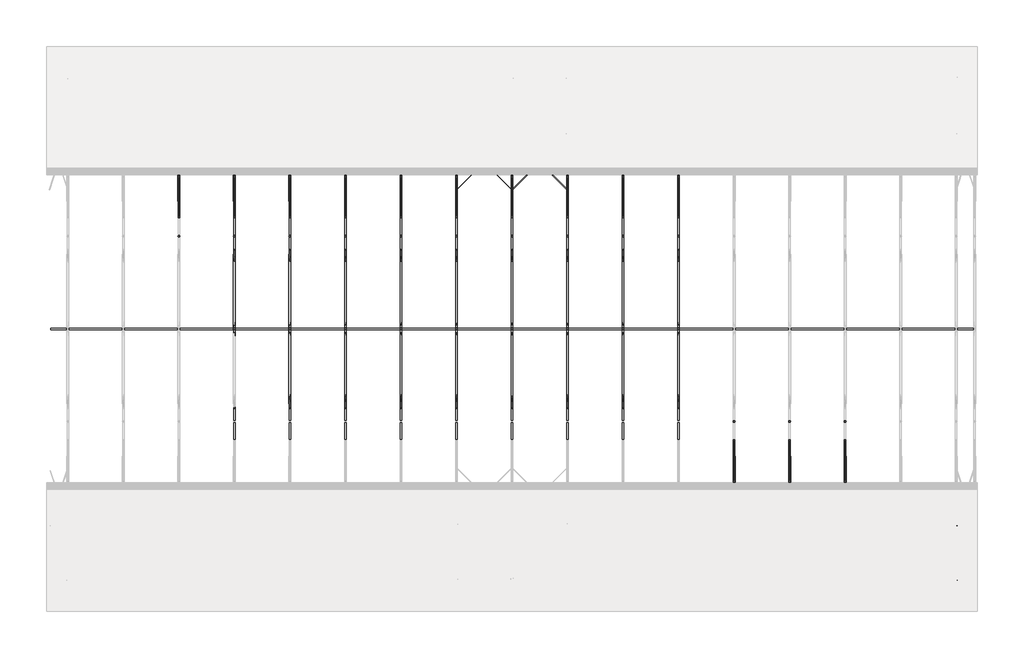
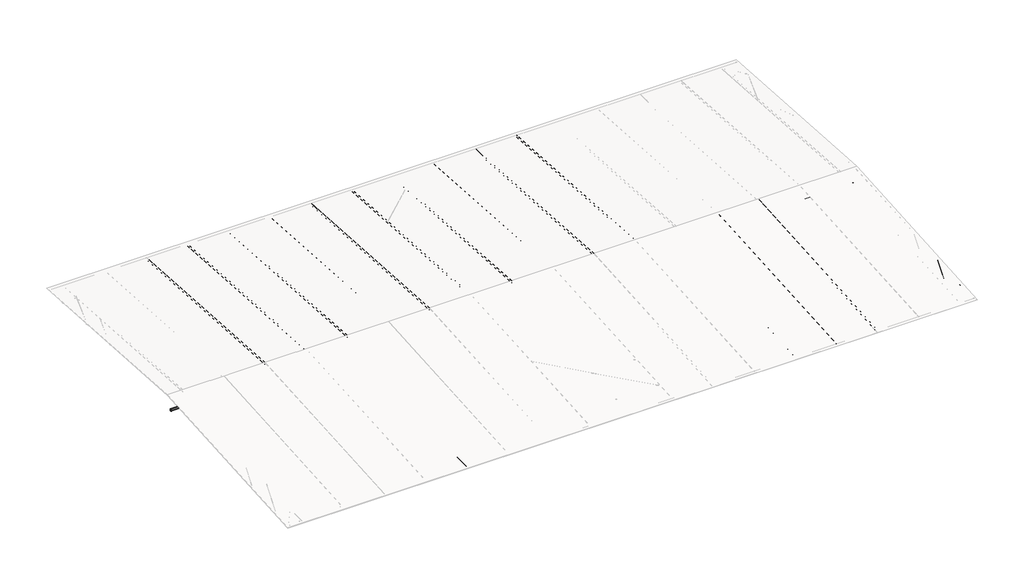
# One storey, part 2 of 3: 89 beams, 8 members.
"""IFC4 building model written with IfcOpenShell, lengths in millimetres."""

from ifc_helpers import new_model, si_unit, origin, place, context, project, spatial, transform, mapped, element, save
from components import round_bar_ef4423fe, round_bar_4b02da19, round_bar_197e2d5d, round_bar_92be63b7, round_bar_eebc96e0, round_bar_8cfec21f, round_bar_b8de9798, ub_universal_beams_ub305x165x40_7b27b8ec, ub_universal_beams_ub305x165x40_84cf911b, ub_universal_beams_ub305x165x40_f28fc4b8, ub_universal_beams_ub305x165x40_3e4cec4f, round_bars_rb_1_1_2_9ddfed39, round_bars_rb_1_1_2_e9ff4006, round_bars_rb_1_1_2_74885bf5, round_bars_rb_1_1_2_fb952806, round_bars_rb_1_1_2_01b69033, round_bars_rb_1_1_2_675568ba, round_bars_rb_1_1_2_2cc5c88c

model = new_model("IFC4")

# Units and contexts
model_context = context("Model", 3, world=origin())
ifc_project = project(units=[si_unit("LENGTHUNIT", "METRE", prefix="MILLI")], contexts=[model_context])

# Site, building, storey
site = spatial("IfcSite", under=ifc_project)
building = spatial("IfcBuilding", under=site)
storey = spatial("IfcBuildingStorey", under=building, Name="Donji pojas resetke", Elevation=6000.0)

# Beams
placement = place(None, origin())
round_bar_shape = round_bar_ef4423fe(model_context)
element("IfcBeam", 1, ObjectType="Round Bar : Ispuna resetke", at=placement, inside=storey, context=model_context, shape_type="MappedRepresentation", body=[
    mapped(round_bar_shape, transform((11063.6750595, -22966.8171651, 7151.7), x_axis=(0.0, 0.0, 1.0), y_axis=(-1.0, 0.0, 0.0), z_axis=(0.0, -1.0, 0.0))),
])
element("IfcBeam", 2, ObjectType="Round Bar : Ispuna resetke", at=placement, inside=storey, context=model_context, shape_type="MappedRepresentation", body=[
    mapped(round_bar_shape, transform((17063.6750595, -22966.8171651, 7151.7), x_axis=(0.0, 0.0, 1.0), y_axis=(-1.0, 0.0, 0.0), z_axis=(0.0, -1.0, 0.0))),
])
element("IfcBeam", 3, ObjectType="Round Bar : Ispuna resetke", at=placement, inside=storey, context=model_context, shape_type="MappedRepresentation", body=[
    mapped(round_bar_shape, transform((23063.6750595, -22966.8171651, 7151.7), x_axis=(0.0, 0.0, 1.0), y_axis=(-1.0, 0.0, 0.0), z_axis=(0.0, -1.0, 0.0))),
])
element("IfcBeam", 4, ObjectType="Round Bar : Ispuna resetke", at=placement, inside=storey, context=model_context, shape_type="MappedRepresentation", body=[
    mapped(round_bar_shape, transform((29063.6750595, -22966.8171651, 7151.7), x_axis=(0.0, 0.0, 1.0), y_axis=(-1.0, 0.0, 0.0), z_axis=(0.0, -1.0, 0.0))),
])
element("IfcBeam", 5, ObjectType="Round Bar : Ispuna resetke", at=placement, inside=storey, context=model_context, shape_type="MappedRepresentation", body=[
    mapped(round_bar_shape, transform((35063.6750595, -22966.8171651, 7151.7), x_axis=(0.0, 0.0, 1.0), y_axis=(-1.0, 0.0, 0.0), z_axis=(0.0, -1.0, 0.0))),
])
element("IfcBeam", 6, ObjectType="Round Bar : Ispuna resetke", at=placement, inside=storey, context=model_context, shape_type="MappedRepresentation", body=[
    mapped(round_bar_shape, transform((41063.6750595, -22966.8171651, 7151.7), x_axis=(0.0, 0.0, 1.0), y_axis=(-1.0, 0.0, 0.0), z_axis=(0.0, -1.0, 0.0))),
])
element("IfcBeam", 7, ObjectType="Round Bar : Ispuna resetke", at=placement, inside=storey, context=model_context, shape_type="MappedRepresentation", body=[
    mapped(round_bar_shape, transform((47063.6750595, -22966.8171651, 7151.7), x_axis=(0.0, 0.0, 1.0), y_axis=(-1.0, 0.0, 0.0), z_axis=(0.0, -1.0, 0.0))),
])
element("IfcBeam", 8, ObjectType="Round Bar : Ispuna resetke", at=placement, inside=storey, context=model_context, shape_type="MappedRepresentation", body=[
    mapped(round_bar_shape, transform((53063.6750595, -22966.8171651, 7151.7), x_axis=(0.0, 0.0, 1.0), y_axis=(-1.0, 0.0, 0.0), z_axis=(0.0, -1.0, 0.0))),
])
element("IfcBeam", 9, ObjectType="Round Bar : Ispuna resetke", at=placement, inside=storey, context=model_context, shape_type="MappedRepresentation", body=[
    mapped(round_bar_shape, transform((59063.6750595, -22966.8171651, 7151.7), x_axis=(0.0, 0.0, 1.0), y_axis=(-1.0, 0.0, 0.0), z_axis=(0.0, -1.0, 0.0))),
])
round_bar_2_shape = round_bar_4b02da19(model_context)
element("IfcBeam", 10, ObjectType="Round Bar : Ispuna resetke", at=placement, inside=storey, context=model_context, shape_type="MappedRepresentation", body=[
    mapped(round_bar_2_shape, transform((5063.6750595, -12966.8171651, 6818.3666667), x_axis=(0.0, 0.0, 1.0), y_axis=(-1.0, 0.0, 0.0), z_axis=(0.0, -1.0, 0.0))),
])
element("IfcBeam", 11, ObjectType="Round Bar : Ispuna resetke", at=placement, inside=storey, context=model_context, shape_type="MappedRepresentation", body=[
    mapped(round_bar_2_shape, transform((11063.6750595, -12966.8171651, 6818.3666667), x_axis=(0.0, 0.0, 1.0), y_axis=(-1.0, 0.0, 0.0), z_axis=(0.0, -1.0, 0.0))),
])
element("IfcBeam", 12, ObjectType="Round Bar : Ispuna resetke", at=placement, inside=storey, context=model_context, shape_type="MappedRepresentation", body=[
    mapped(round_bar_2_shape, transform((17063.6750595, -12966.8171651, 6818.3666667), x_axis=(0.0, 0.0, 1.0), y_axis=(-1.0, 0.0, 0.0), z_axis=(0.0, -1.0, 0.0))),
])
element("IfcBeam", 13, ObjectType="Round Bar : Ispuna resetke", at=placement, inside=storey, context=model_context, shape_type="MappedRepresentation", body=[
    mapped(round_bar_2_shape, transform((23063.6750595, -12966.8171651, 6818.3666667), x_axis=(0.0, 0.0, 1.0), y_axis=(-1.0, 0.0, 0.0), z_axis=(0.0, -1.0, 0.0))),
])
element("IfcBeam", 14, ObjectType="Round Bar : Ispuna resetke", at=placement, inside=storey, context=model_context, shape_type="MappedRepresentation", body=[
    mapped(round_bar_2_shape, transform((29063.6750595, -12966.8171651, 6818.3666667), x_axis=(0.0, 0.0, 1.0), y_axis=(-1.0, 0.0, 0.0), z_axis=(0.0, -1.0, 0.0))),
])
element("IfcBeam", 15, ObjectType="Round Bar : Ispuna resetke", at=placement, inside=storey, context=model_context, shape_type="MappedRepresentation", body=[
    mapped(round_bar_2_shape, transform((35063.6750595, -12966.8171651, 6818.3666667), x_axis=(0.0, 0.0, 1.0), y_axis=(-1.0, 0.0, 0.0), z_axis=(0.0, -1.0, 0.0))),
])
element("IfcBeam", 16, ObjectType="Round Bar : Ispuna resetke", at=placement, inside=storey, context=model_context, shape_type="MappedRepresentation", body=[
    mapped(round_bar_2_shape, transform((41063.6750595, -12966.8171651, 6818.3666667), x_axis=(0.0, 0.0, 1.0), y_axis=(-1.0, 0.0, 0.0), z_axis=(0.0, -1.0, 0.0))),
])
element("IfcBeam", 17, ObjectType="Round Bar : Ispuna resetke", at=placement, inside=storey, context=model_context, shape_type="MappedRepresentation", body=[
    mapped(round_bar_2_shape, transform((47063.6750595, -12966.8171651, 6818.3666667), x_axis=(0.0, 0.0, 1.0), y_axis=(-1.0, 0.0, 0.0), z_axis=(0.0, -1.0, 0.0))),
])
element("IfcBeam", 18, ObjectType="Round Bar : Ispuna resetke", at=placement, inside=storey, context=model_context, shape_type="MappedRepresentation", body=[
    mapped(round_bar_2_shape, transform((53063.6750595, -12966.8171651, 6818.3666667), x_axis=(0.0, 0.0, 1.0), y_axis=(-1.0, 0.0, 0.0), z_axis=(0.0, -1.0, 0.0))),
])
element("IfcBeam", 19, ObjectType="Round Bar : Ispuna resetke", at=placement, inside=storey, context=model_context, shape_type="MappedRepresentation", body=[
    mapped(round_bar_2_shape, transform((59063.6750595, -12966.8171651, 6818.3666667), x_axis=(0.0, 0.0, 1.0), y_axis=(-1.0, 0.0, 0.0), z_axis=(0.0, -1.0, 0.0))),
])
element("IfcBeam", 20, ObjectType="Round Bar : Ispuna resetke", at=placement, inside=storey, context=model_context, shape_type="MappedRepresentation", body=[
    mapped(round_bar_2_shape, transform((65063.6750595, -32966.8171651, 6818.3666667), x_axis=(0.0, 0.0, 1.0), y_axis=(-1.0, 0.0, 0.0), z_axis=(0.0, -1.0, 0.0))),
])
element("IfcBeam", 21, ObjectType="Round Bar : Ispuna resetke", at=placement, inside=storey, context=model_context, shape_type="MappedRepresentation", body=[
    mapped(round_bar_2_shape, transform((71063.6750595, -32966.8171651, 6818.3666667), x_axis=(0.0, 0.0, 1.0), y_axis=(-1.0, 0.0, 0.0), z_axis=(0.0, -1.0, 0.0))),
])
element("IfcBeam", 22, ObjectType="Round Bar : Ispuna resetke", at=placement, inside=storey, context=model_context, shape_type="MappedRepresentation", body=[
    mapped(round_bar_2_shape, transform((77063.6750595, -32966.8171651, 6818.3666667), x_axis=(0.0, 0.0, 1.0), y_axis=(-1.0, 0.0, 0.0), z_axis=(0.0, -1.0, 0.0))),
])
round_bar_3_shape = round_bar_197e2d5d(model_context)
element("IfcBeam", 23, ObjectType="Round Bar : Ispuna resetke", at=placement, inside=storey, context=model_context, shape_type="MappedRepresentation", body=[
    mapped(round_bar_3_shape, transform((5063.6750595, -2966.8171651, 6485.0333333), x_axis=(0.0, 0.0, 1.0), y_axis=(-1.0, 0.0, 0.0), z_axis=(0.0, -1.0, 0.0))),
])
element("IfcBeam", 24, ObjectType="Round Bar : Ispuna resetke", at=placement, inside=storey, context=model_context, shape_type="MappedRepresentation", body=[
    mapped(round_bar_3_shape, transform((11063.6750595, -2966.8171651, 6485.0333333), x_axis=(0.0, 0.0, 1.0), y_axis=(-1.0, 0.0, 0.0), z_axis=(0.0, -1.0, 0.0))),
])
element("IfcBeam", 25, ObjectType="Round Bar : Ispuna resetke", at=placement, inside=storey, context=model_context, shape_type="MappedRepresentation", body=[
    mapped(round_bar_3_shape, transform((17063.6750595, -2966.8171651, 6485.0333333), x_axis=(0.0, 0.0, 1.0), y_axis=(-1.0, 0.0, 0.0), z_axis=(0.0, -1.0, 0.0))),
])
element("IfcBeam", 26, ObjectType="Round Bar : Ispuna resetke", at=placement, inside=storey, context=model_context, shape_type="MappedRepresentation", body=[
    mapped(round_bar_3_shape, transform((23063.6750595, -2966.8171651, 6485.0333333), x_axis=(0.0, 0.0, 1.0), y_axis=(-1.0, 0.0, 0.0), z_axis=(0.0, -1.0, 0.0))),
])
element("IfcBeam", 27, ObjectType="Round Bar : Ispuna resetke", at=placement, inside=storey, context=model_context, shape_type="MappedRepresentation", body=[
    mapped(round_bar_3_shape, transform((29063.6750595, -2966.8171651, 6485.0333333), x_axis=(0.0, 0.0, 1.0), y_axis=(-1.0, 0.0, 0.0), z_axis=(0.0, -1.0, 0.0))),
])
element("IfcBeam", 28, ObjectType="Round Bar : Ispuna resetke", at=placement, inside=storey, context=model_context, shape_type="MappedRepresentation", body=[
    mapped(round_bar_3_shape, transform((35063.6750595, -2966.8171651, 6485.0333333), x_axis=(0.0, 0.0, 1.0), y_axis=(-1.0, 0.0, 0.0), z_axis=(0.0, -1.0, 0.0))),
])
element("IfcBeam", 29, ObjectType="Round Bar : Ispuna resetke", at=placement, inside=storey, context=model_context, shape_type="MappedRepresentation", body=[
    mapped(round_bar_3_shape, transform((41063.6750595, -2966.8171651, 6485.0333333), x_axis=(0.0, 0.0, 1.0), y_axis=(-1.0, 0.0, 0.0), z_axis=(0.0, -1.0, 0.0))),
])
element("IfcBeam", 30, ObjectType="Round Bar : Ispuna resetke", at=placement, inside=storey, context=model_context, shape_type="MappedRepresentation", body=[
    mapped(round_bar_3_shape, transform((47063.6750595, -2966.8171651, 6485.0333333), x_axis=(0.0, 0.0, 1.0), y_axis=(-1.0, 0.0, 0.0), z_axis=(0.0, -1.0, 0.0))),
])
element("IfcBeam", 31, ObjectType="Round Bar : Ispuna resetke", at=placement, inside=storey, context=model_context, shape_type="MappedRepresentation", body=[
    mapped(round_bar_3_shape, transform((53063.6750595, -2966.8171651, 6485.0333333), x_axis=(0.0, 0.0, 1.0), y_axis=(-1.0, 0.0, 0.0), z_axis=(0.0, -1.0, 0.0))),
])
element("IfcBeam", 32, ObjectType="Round Bar : Ispuna resetke", at=placement, inside=storey, context=model_context, shape_type="MappedRepresentation", body=[
    mapped(round_bar_3_shape, transform((59063.6750595, -2966.8171651, 6485.0333333), x_axis=(0.0, 0.0, 1.0), y_axis=(-1.0, 0.0, 0.0), z_axis=(0.0, -1.0, 0.0))),
])
element("IfcBeam", 33, ObjectType="Round Bar : Ispuna resetke", at=placement, inside=storey, context=model_context, shape_type="MappedRepresentation", body=[
    mapped(round_bar_3_shape, transform((65063.6750595, -42966.8171651, 6485.0333333), x_axis=(0.0, 0.0, 1.0), y_axis=(-1.0, 0.0, 0.0), z_axis=(0.0, -1.0, 0.0))),
])
element("IfcBeam", 34, ObjectType="Round Bar : Ispuna resetke", at=placement, inside=storey, context=model_context, shape_type="MappedRepresentation", body=[
    mapped(round_bar_3_shape, transform((71063.6750595, -42966.8171651, 6485.0333333), x_axis=(0.0, 0.0, 1.0), y_axis=(-1.0, 0.0, 0.0), z_axis=(0.0, -1.0, 0.0))),
])
element("IfcBeam", 35, ObjectType="Round Bar : Ispuna resetke", at=placement, inside=storey, context=model_context, shape_type="MappedRepresentation", body=[
    mapped(round_bar_3_shape, transform((77063.6750595, -42966.8171651, 6485.0333333), x_axis=(0.0, 0.0, 1.0), y_axis=(-1.0, 0.0, 0.0), z_axis=(0.0, -1.0, 0.0))),
])
element("IfcBeam", 36, ObjectType="Round Bar : Ispuna resetke", at=placement, inside=storey, context=model_context, shape_type="MappedRepresentation", body=[
    mapped(round_bar_3_shape, transform((83063.6750595, -42966.8171651, 6485.0333333), x_axis=(0.0, 0.0, 1.0), y_axis=(-1.0, 0.0, 0.0), z_axis=(0.0, -1.0, 0.0))),
])
round_bar_4_shape = round_bar_92be63b7(model_context)
element("IfcBeam", 37, ObjectType="Round Bar : Ispuna resetke", at=placement, inside=storey, context=model_context, shape_type="MappedRepresentation", body=[
    mapped(round_bar_4_shape, transform((11063.6750595, -17966.8171651, 6818.3666667), x_axis=(0.0, -0.9912279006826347, -0.13216372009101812), y_axis=(-1.0, 0.0, 0.0), z_axis=(0.0, 0.13216372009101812, -0.9912279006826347))),
])
element("IfcBeam", 38, ObjectType="Round Bar : Ispuna resetke", at=placement, inside=storey, context=model_context, shape_type="MappedRepresentation", body=[
    mapped(round_bar_4_shape, transform((17063.6750595, -17966.8171651, 6818.3666667), x_axis=(0.0, -0.9912279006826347, -0.13216372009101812), y_axis=(-1.0, 0.0, 0.0), z_axis=(0.0, 0.13216372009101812, -0.9912279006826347))),
])
element("IfcBeam", 39, ObjectType="Round Bar : Ispuna resetke", at=placement, inside=storey, context=model_context, shape_type="MappedRepresentation", body=[
    mapped(round_bar_4_shape, transform((23063.6750595, -17966.8171651, 6818.3666667), x_axis=(0.0, -0.9912279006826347, -0.13216372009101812), y_axis=(-1.0, 0.0, 0.0), z_axis=(0.0, 0.13216372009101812, -0.9912279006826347))),
])
element("IfcBeam", 40, ObjectType="Round Bar : Ispuna resetke", at=placement, inside=storey, context=model_context, shape_type="MappedRepresentation", body=[
    mapped(round_bar_4_shape, transform((29063.6750595, -17966.8171651, 6818.3666667), x_axis=(0.0, -0.9912279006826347, -0.13216372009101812), y_axis=(-1.0, 0.0, 0.0), z_axis=(0.0, 0.13216372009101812, -0.9912279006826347))),
])
element("IfcBeam", 41, ObjectType="Round Bar : Ispuna resetke", at=placement, inside=storey, context=model_context, shape_type="MappedRepresentation", body=[
    mapped(round_bar_4_shape, transform((35063.6750595, -17966.8171651, 6818.3666667), x_axis=(0.0, -0.9912279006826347, -0.13216372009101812), y_axis=(-1.0, 0.0, 0.0), z_axis=(0.0, 0.13216372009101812, -0.9912279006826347))),
])
element("IfcBeam", 42, ObjectType="Round Bar : Ispuna resetke", at=placement, inside=storey, context=model_context, shape_type="MappedRepresentation", body=[
    mapped(round_bar_4_shape, transform((41063.6750595, -17966.8171651, 6818.3666667), x_axis=(0.0, -0.9912279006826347, -0.13216372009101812), y_axis=(-1.0, 0.0, 0.0), z_axis=(0.0, 0.13216372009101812, -0.9912279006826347))),
])
element("IfcBeam", 43, ObjectType="Round Bar : Ispuna resetke", at=placement, inside=storey, context=model_context, shape_type="MappedRepresentation", body=[
    mapped(round_bar_4_shape, transform((47063.6750595, -17966.8171651, 6818.3666667), x_axis=(0.0, -0.9912279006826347, -0.13216372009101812), y_axis=(-1.0, 0.0, 0.0), z_axis=(0.0, 0.13216372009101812, -0.9912279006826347))),
])
element("IfcBeam", 44, ObjectType="Round Bar : Ispuna resetke", at=placement, inside=storey, context=model_context, shape_type="MappedRepresentation", body=[
    mapped(round_bar_4_shape, transform((53063.6750595, -17966.8171651, 6818.3666667), x_axis=(0.0, -0.9912279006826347, -0.13216372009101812), y_axis=(-1.0, 0.0, 0.0), z_axis=(0.0, 0.13216372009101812, -0.9912279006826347))),
])
element("IfcBeam", 45, ObjectType="Round Bar : Ispuna resetke", at=placement, inside=storey, context=model_context, shape_type="MappedRepresentation", body=[
    mapped(round_bar_4_shape, transform((59063.6750595, -17966.8171651, 6818.3666667), x_axis=(0.0, -0.9912279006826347, -0.13216372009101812), y_axis=(-1.0, 0.0, 0.0), z_axis=(0.0, 0.13216372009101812, -0.9912279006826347))),
])
round_bar_5_shape = round_bar_eebc96e0(model_context)
element("IfcBeam", 46, ObjectType="Round Bar : Ispuna resetke", at=placement, inside=storey, context=model_context, shape_type="MappedRepresentation", body=[
    mapped(round_bar_5_shape, transform((5063.6750595, -7966.8171651, 6485.0333333), x_axis=(0.0, -0.9977851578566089, -0.06651901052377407), y_axis=(-1.0, 0.0, 0.0), z_axis=(0.0, 0.06651901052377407, -0.9977851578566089))),
])
element("IfcBeam", 47, ObjectType="Round Bar : Ispuna resetke", at=placement, inside=storey, context=model_context, shape_type="MappedRepresentation", body=[
    mapped(round_bar_5_shape, transform((11063.6750595, -7966.8171651, 6485.0333333), x_axis=(0.0, -0.9977851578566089, -0.06651901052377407), y_axis=(-1.0, 0.0, 0.0), z_axis=(0.0, 0.06651901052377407, -0.9977851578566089))),
])
element("IfcBeam", 48, ObjectType="Round Bar : Ispuna resetke", at=placement, inside=storey, context=model_context, shape_type="MappedRepresentation", body=[
    mapped(round_bar_5_shape, transform((17063.6750595, -7966.8171651, 6485.0333333), x_axis=(0.0, -0.9977851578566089, -0.06651901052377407), y_axis=(-1.0, 0.0, 0.0), z_axis=(0.0, 0.06651901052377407, -0.9977851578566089))),
])
element("IfcBeam", 49, ObjectType="Round Bar : Ispuna resetke", at=placement, inside=storey, context=model_context, shape_type="MappedRepresentation", body=[
    mapped(round_bar_5_shape, transform((23063.6750595, -7966.8171651, 6485.0333333), x_axis=(0.0, -0.9977851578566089, -0.06651901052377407), y_axis=(-1.0, 0.0, 0.0), z_axis=(0.0, 0.06651901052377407, -0.9977851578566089))),
])
element("IfcBeam", 50, ObjectType="Round Bar : Ispuna resetke", at=placement, inside=storey, context=model_context, shape_type="MappedRepresentation", body=[
    mapped(round_bar_5_shape, transform((29063.6750595, -7966.8171651, 6485.0333333), x_axis=(0.0, -0.9977851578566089, -0.06651901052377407), y_axis=(-1.0, 0.0, 0.0), z_axis=(0.0, 0.06651901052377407, -0.9977851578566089))),
])
element("IfcBeam", 51, ObjectType="Round Bar : Ispuna resetke", at=placement, inside=storey, context=model_context, shape_type="MappedRepresentation", body=[
    mapped(round_bar_5_shape, transform((35063.6750595, -7966.8171651, 6485.0333333), x_axis=(0.0, -0.9977851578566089, -0.06651901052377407), y_axis=(-1.0, 0.0, 0.0), z_axis=(0.0, 0.06651901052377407, -0.9977851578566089))),
])
element("IfcBeam", 52, ObjectType="Round Bar : Ispuna resetke", at=placement, inside=storey, context=model_context, shape_type="MappedRepresentation", body=[
    mapped(round_bar_5_shape, transform((41063.6750595, -7966.8171651, 6485.0333333), x_axis=(0.0, -0.9977851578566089, -0.06651901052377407), y_axis=(-1.0, 0.0, 0.0), z_axis=(0.0, 0.06651901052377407, -0.9977851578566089))),
])
element("IfcBeam", 53, ObjectType="Round Bar : Ispuna resetke", at=placement, inside=storey, context=model_context, shape_type="MappedRepresentation", body=[
    mapped(round_bar_5_shape, transform((47063.6750595, -7966.8171651, 6485.0333333), x_axis=(0.0, -0.9977851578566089, -0.06651901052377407), y_axis=(-1.0, 0.0, 0.0), z_axis=(0.0, 0.06651901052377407, -0.9977851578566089))),
])
element("IfcBeam", 54, ObjectType="Round Bar : Ispuna resetke", at=placement, inside=storey, context=model_context, shape_type="MappedRepresentation", body=[
    mapped(round_bar_5_shape, transform((53063.6750595, -7966.8171651, 6485.0333333), x_axis=(0.0, -0.9977851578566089, -0.06651901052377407), y_axis=(-1.0, 0.0, 0.0), z_axis=(0.0, 0.06651901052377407, -0.9977851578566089))),
])
element("IfcBeam", 55, ObjectType="Round Bar : Ispuna resetke", at=placement, inside=storey, context=model_context, shape_type="MappedRepresentation", body=[
    mapped(round_bar_5_shape, transform((59063.6750595, -7966.8171651, 6485.0333333), x_axis=(0.0, -0.9977851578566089, -0.06651901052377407), y_axis=(-1.0, 0.0, 0.0), z_axis=(0.0, 0.06651901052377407, -0.9977851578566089))),
])
round_bar_6_shape = round_bar_8cfec21f(model_context)
element("IfcBeam", 56, ObjectType="Round Bar : Ispuna resetke", at=placement, inside=storey, context=model_context, shape_type="MappedRepresentation", body=[
    mapped(round_bar_6_shape, transform((17063.6750595, -27966.8171651, 6818.3666667), x_axis=(0.0, -0.9912279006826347, 0.13216372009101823), y_axis=(-1.0, 0.0, 0.0), z_axis=(0.0, -0.13216372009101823, -0.9912279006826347))),
])
element("IfcBeam", 57, ObjectType="Round Bar : Ispuna resetke", at=placement, inside=storey, context=model_context, shape_type="MappedRepresentation", body=[
    mapped(round_bar_6_shape, transform((23063.6750595, -27966.8171651, 6818.3666667), x_axis=(0.0, -0.9912279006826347, 0.13216372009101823), y_axis=(-1.0, 0.0, 0.0), z_axis=(0.0, -0.13216372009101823, -0.9912279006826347))),
])
element("IfcBeam", 58, ObjectType="Round Bar : Ispuna resetke", at=placement, inside=storey, context=model_context, shape_type="MappedRepresentation", body=[
    mapped(round_bar_6_shape, transform((29063.6750595, -27966.8171651, 6818.3666667), x_axis=(0.0, -0.9912279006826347, 0.13216372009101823), y_axis=(-1.0, 0.0, 0.0), z_axis=(0.0, -0.13216372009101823, -0.9912279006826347))),
])
element("IfcBeam", 59, ObjectType="Round Bar : Ispuna resetke", at=placement, inside=storey, context=model_context, shape_type="MappedRepresentation", body=[
    mapped(round_bar_6_shape, transform((35063.6750595, -27966.8171651, 6818.3666667), x_axis=(0.0, -0.9912279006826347, 0.13216372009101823), y_axis=(-1.0, 0.0, 0.0), z_axis=(0.0, -0.13216372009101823, -0.9912279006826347))),
])
element("IfcBeam", 60, ObjectType="Round Bar : Ispuna resetke", at=placement, inside=storey, context=model_context, shape_type="MappedRepresentation", body=[
    mapped(round_bar_6_shape, transform((41063.6750595, -27966.8171651, 6818.3666667), x_axis=(0.0, -0.9912279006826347, 0.13216372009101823), y_axis=(-1.0, 0.0, 0.0), z_axis=(0.0, -0.13216372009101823, -0.9912279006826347))),
])
element("IfcBeam", 61, ObjectType="Round Bar : Ispuna resetke", at=placement, inside=storey, context=model_context, shape_type="MappedRepresentation", body=[
    mapped(round_bar_6_shape, transform((47063.6750595, -27966.8171651, 6818.3666667), x_axis=(0.0, -0.9912279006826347, 0.13216372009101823), y_axis=(-1.0, 0.0, 0.0), z_axis=(0.0, -0.13216372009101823, -0.9912279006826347))),
])
element("IfcBeam", 62, ObjectType="Round Bar : Ispuna resetke", at=placement, inside=storey, context=model_context, shape_type="MappedRepresentation", body=[
    mapped(round_bar_6_shape, transform((53063.6750595, -27966.8171651, 6818.3666667), x_axis=(0.0, -0.9912279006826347, 0.13216372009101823), y_axis=(-1.0, 0.0, 0.0), z_axis=(0.0, -0.13216372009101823, -0.9912279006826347))),
])
element("IfcBeam", 63, ObjectType="Round Bar : Ispuna resetke", at=placement, inside=storey, context=model_context, shape_type="MappedRepresentation", body=[
    mapped(round_bar_6_shape, transform((59063.6750595, -27966.8171651, 6818.3666667), x_axis=(0.0, -0.9912279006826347, 0.13216372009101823), y_axis=(-1.0, 0.0, 0.0), z_axis=(0.0, -0.13216372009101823, -0.9912279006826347))),
])
round_bar_7_shape = round_bar_b8de9798(model_context)
element("IfcBeam", 64, ObjectType="Round Bar : Ispuna resetke", at=placement, inside=storey, context=model_context, shape_type="MappedRepresentation", body=[
    mapped(round_bar_7_shape, transform((65063.6750595, -37966.8171651, 6485.0333333), x_axis=(0.0, -0.9977851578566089, 0.0665190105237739), y_axis=(-1.0, 0.0, 0.0), z_axis=(0.0, -0.0665190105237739, -0.9977851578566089))),
])
element("IfcBeam", 65, ObjectType="Round Bar : Ispuna resetke", at=placement, inside=storey, context=model_context, shape_type="MappedRepresentation", body=[
    mapped(round_bar_7_shape, transform((71063.6750595, -37966.8171651, 6485.0333333), x_axis=(0.0, -0.9977851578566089, 0.0665190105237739), y_axis=(-1.0, 0.0, 0.0), z_axis=(0.0, -0.0665190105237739, -0.9977851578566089))),
])
element("IfcBeam", 66, ObjectType="Round Bar : Ispuna resetke", at=placement, inside=storey, context=model_context, shape_type="MappedRepresentation", body=[
    mapped(round_bar_7_shape, transform((77063.6750595, -37966.8171651, 6485.0333333), x_axis=(0.0, -0.9977851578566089, 0.0665190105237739), y_axis=(-1.0, 0.0, 0.0), z_axis=(0.0, -0.0665190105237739, -0.9977851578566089))),
])
ub_universal_beams_ub305x165x40_shape = ub_universal_beams_ub305x165x40_7b27b8ec(model_context)
element("IfcBeam", 67, ObjectType="UB-Universal Beams : UB305x165x40", at=placement, inside=storey, context=model_context, shape_type="MappedRepresentation", body=[
    mapped(ub_universal_beams_ub305x165x40_shape, transform((11063.6750595, -22966.8171651, 6151.7), x_axis=(0.0, -1.0, 0.0), y_axis=(1.0, 0.0, 0.0), z_axis=(0.0, 0.0, 1.0))),
])
element("IfcBeam", 68, ObjectType="UB-Universal Beams : UB305x165x40", at=placement, inside=storey, context=model_context, shape_type="MappedRepresentation", body=[
    mapped(ub_universal_beams_ub305x165x40_shape, transform((17063.6750595, -22966.8171651, 6151.7), x_axis=(0.0, -1.0, 0.0), y_axis=(1.0, 0.0, 0.0), z_axis=(0.0, 0.0, 1.0))),
])
element("IfcBeam", 69, ObjectType="UB-Universal Beams : UB305x165x40", at=placement, inside=storey, context=model_context, shape_type="MappedRepresentation", body=[
    mapped(ub_universal_beams_ub305x165x40_shape, transform((23063.6750595, -22966.8171651, 6151.7), x_axis=(0.0, -1.0, 0.0), y_axis=(1.0, 0.0, 0.0), z_axis=(0.0, 0.0, 1.0))),
])
element("IfcBeam", 70, ObjectType="UB-Universal Beams : UB305x165x40", at=placement, inside=storey, context=model_context, shape_type="MappedRepresentation", body=[
    mapped(ub_universal_beams_ub305x165x40_shape, transform((29063.6750595, -22966.8171651, 6151.7), x_axis=(0.0, -1.0, 0.0), y_axis=(1.0, 0.0, 0.0), z_axis=(0.0, 0.0, 1.0))),
])
element("IfcBeam", 71, ObjectType="UB-Universal Beams : UB305x165x40", at=placement, inside=storey, context=model_context, shape_type="MappedRepresentation", body=[
    mapped(ub_universal_beams_ub305x165x40_shape, transform((35063.6750595, -22966.8171651, 6151.7), x_axis=(0.0, -1.0, 0.0), y_axis=(1.0, 0.0, 0.0), z_axis=(0.0, 0.0, 1.0))),
])
element("IfcBeam", 72, ObjectType="UB-Universal Beams : UB305x165x40", at=placement, inside=storey, context=model_context, shape_type="MappedRepresentation", body=[
    mapped(ub_universal_beams_ub305x165x40_shape, transform((41063.6750595, -22966.8171651, 6151.7), x_axis=(0.0, -1.0, 0.0), y_axis=(1.0, 0.0, 0.0), z_axis=(0.0, 0.0, 1.0))),
])
element("IfcBeam", 73, ObjectType="UB-Universal Beams : UB305x165x40", at=placement, inside=storey, context=model_context, shape_type="MappedRepresentation", body=[
    mapped(ub_universal_beams_ub305x165x40_shape, transform((47063.6750595, -22966.8171651, 6151.7), x_axis=(0.0, -1.0, 0.0), y_axis=(1.0, 0.0, 0.0), z_axis=(0.0, 0.0, 1.0))),
])
element("IfcBeam", 74, ObjectType="UB-Universal Beams : UB305x165x40", at=placement, inside=storey, context=model_context, shape_type="MappedRepresentation", body=[
    mapped(ub_universal_beams_ub305x165x40_shape, transform((53063.6750595, -22966.8171651, 6151.7), x_axis=(0.0, -1.0, 0.0), y_axis=(1.0, 0.0, 0.0), z_axis=(0.0, 0.0, 1.0))),
])
element("IfcBeam", 75, ObjectType="UB-Universal Beams : UB305x165x40", at=placement, inside=storey, context=model_context, shape_type="MappedRepresentation", body=[
    mapped(ub_universal_beams_ub305x165x40_shape, transform((59063.6750595, -22966.8171651, 6151.7), x_axis=(0.0, -1.0, 0.0), y_axis=(1.0, 0.0, 0.0), z_axis=(0.0, 0.0, 1.0))),
])
ub_universal_beams_ub305x165x40_2_shape = ub_universal_beams_ub305x165x40_84cf911b(model_context)
element("IfcBeam", 76, ObjectType="UB-Universal Beams : UB305x165x40", at=placement, inside=storey, context=model_context, shape_type="MappedRepresentation", body=[
    mapped(ub_universal_beams_ub305x165x40_2_shape, transform((41063.6750595, -22966.8171651, 5848.3), x_axis=(1.0, 0.0, 0.0), y_axis=(0.0, 1.0, 0.0), z_axis=(0.0, 0.0, 1.0))),
])
ub_universal_beams_ub305x165x40_3_shape = ub_universal_beams_ub305x165x40_f28fc4b8(model_context)
element("IfcBeam", 77, ObjectType="UB-Universal Beams : UB305x165x40", at=placement, inside=storey, context=model_context, shape_type="MappedRepresentation", body=[
    mapped(ub_universal_beams_ub305x165x40_3_shape, transform((65063.6750595, -37966.8171651, 7151.7), x_axis=(0.0, -0.9977851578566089, -0.06651901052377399), y_axis=(1.0, 0.0, 0.0), z_axis=(0.0, -0.06651901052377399, 0.9977851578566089))),
])
element("IfcBeam", 78, ObjectType="UB-Universal Beams : UB305x165x40", at=placement, inside=storey, context=model_context, shape_type="MappedRepresentation", body=[
    mapped(ub_universal_beams_ub305x165x40_3_shape, transform((71063.6750595, -37966.8171651, 7151.7), x_axis=(0.0, -0.9977851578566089, -0.06651901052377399), y_axis=(1.0, 0.0, 0.0), z_axis=(0.0, -0.06651901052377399, 0.9977851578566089))),
])
element("IfcBeam", 79, ObjectType="UB-Universal Beams : UB305x165x40", at=placement, inside=storey, context=model_context, shape_type="MappedRepresentation", body=[
    mapped(ub_universal_beams_ub305x165x40_3_shape, transform((77063.6750595, -37966.8171651, 7151.7), x_axis=(0.0, -0.9977851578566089, -0.06651901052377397), y_axis=(1.0, 0.0, 0.0), z_axis=(0.0, -0.06651901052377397, 0.9977851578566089))),
])
ub_universal_beams_ub305x165x40_4_shape = ub_universal_beams_ub305x165x40_3e4cec4f(model_context)
element("IfcBeam", 80, ObjectType="UB-Universal Beams : UB305x165x40", at=placement, inside=storey, context=model_context, shape_type="MappedRepresentation", body=[
    mapped(ub_universal_beams_ub305x165x40_4_shape, transform((5063.6750595, -7966.8171651, 7151.7), x_axis=(0.0, -0.9977851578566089, 0.06651901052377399), y_axis=(1.0, 0.0, 0.0), z_axis=(0.0, 0.06651901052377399, 0.9977851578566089))),
])
element("IfcBeam", 81, ObjectType="UB-Universal Beams : UB305x165x40", at=placement, inside=storey, context=model_context, shape_type="MappedRepresentation", body=[
    mapped(ub_universal_beams_ub305x165x40_4_shape, transform((11063.6750595, -7966.8171651, 7151.7), x_axis=(0.0, -0.9977851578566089, 0.06651901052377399), y_axis=(1.0, 0.0, 0.0), z_axis=(0.0, 0.06651901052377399, 0.9977851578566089))),
])
element("IfcBeam", 82, ObjectType="UB-Universal Beams : UB305x165x40", at=placement, inside=storey, context=model_context, shape_type="MappedRepresentation", body=[
    mapped(ub_universal_beams_ub305x165x40_4_shape, transform((17063.6750595, -7966.8171651, 7151.7), x_axis=(0.0, -0.9977851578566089, 0.06651901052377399), y_axis=(1.0, 0.0, 0.0), z_axis=(0.0, 0.06651901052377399, 0.9977851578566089))),
])
element("IfcBeam", 83, ObjectType="UB-Universal Beams : UB305x165x40", at=placement, inside=storey, context=model_context, shape_type="MappedRepresentation", body=[
    mapped(ub_universal_beams_ub305x165x40_4_shape, transform((23063.6750595, -7966.8171651, 7151.7), x_axis=(0.0, -0.9977851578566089, 0.06651901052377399), y_axis=(1.0, 0.0, 0.0), z_axis=(0.0, 0.06651901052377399, 0.9977851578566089))),
])
element("IfcBeam", 84, ObjectType="UB-Universal Beams : UB305x165x40", at=placement, inside=storey, context=model_context, shape_type="MappedRepresentation", body=[
    mapped(ub_universal_beams_ub305x165x40_4_shape, transform((29063.6750595, -7966.8171651, 7151.7), x_axis=(0.0, -0.9977851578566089, 0.06651901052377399), y_axis=(1.0, 0.0, 0.0), z_axis=(0.0, 0.06651901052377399, 0.9977851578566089))),
])
element("IfcBeam", 85, ObjectType="UB-Universal Beams : UB305x165x40", at=placement, inside=storey, context=model_context, shape_type="MappedRepresentation", body=[
    mapped(ub_universal_beams_ub305x165x40_4_shape, transform((35063.6750595, -7966.8171651, 7151.7), x_axis=(0.0, -0.9977851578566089, 0.06651901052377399), y_axis=(1.0, 0.0, 0.0), z_axis=(0.0, 0.06651901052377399, 0.9977851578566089))),
])
element("IfcBeam", 86, ObjectType="UB-Universal Beams : UB305x165x40", at=placement, inside=storey, context=model_context, shape_type="MappedRepresentation", body=[
    mapped(ub_universal_beams_ub305x165x40_4_shape, transform((41063.6750595, -7966.8171651, 7151.7), x_axis=(0.0, -0.9977851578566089, 0.06651901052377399), y_axis=(1.0, 0.0, 0.0), z_axis=(0.0, 0.06651901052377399, 0.9977851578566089))),
])
element("IfcBeam", 87, ObjectType="UB-Universal Beams : UB305x165x40", at=placement, inside=storey, context=model_context, shape_type="MappedRepresentation", body=[
    mapped(ub_universal_beams_ub305x165x40_4_shape, transform((47063.6750595, -7966.8171651, 7151.7), x_axis=(0.0, -0.9977851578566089, 0.06651901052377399), y_axis=(1.0, 0.0, 0.0), z_axis=(0.0, 0.06651901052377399, 0.9977851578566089))),
])
element("IfcBeam", 88, ObjectType="UB-Universal Beams : UB305x165x40", at=placement, inside=storey, context=model_context, shape_type="MappedRepresentation", body=[
    mapped(ub_universal_beams_ub305x165x40_4_shape, transform((53063.6750595, -7966.8171651, 7151.7), x_axis=(0.0, -0.9977851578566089, 0.06651901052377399), y_axis=(1.0, 0.0, 0.0), z_axis=(0.0, 0.06651901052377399, 0.9977851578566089))),
])
element("IfcBeam", 89, ObjectType="UB-Universal Beams : UB305x165x40", at=placement, inside=storey, context=model_context, shape_type="MappedRepresentation", body=[
    mapped(ub_universal_beams_ub305x165x40_4_shape, transform((59063.6750595, -7966.8171651, 7151.7), x_axis=(0.0, -0.9977851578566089, 0.06651901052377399), y_axis=(1.0, 0.0, 0.0), z_axis=(0.0, 0.06651901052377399, 0.9977851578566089))),
])

# Members
round_bars_rb_1_1_2_shape = round_bars_rb_1_1_2_9ddfed39(model_context)
element("IfcMember", 90, ObjectType="Round Bars : RB 1 1/2", at=placement, inside=storey, context=model_context, shape_type="MappedRepresentation", body=[
    mapped(round_bars_rb_1_1_2_shape, transform((44063.6750595, -4973.4616916, 6952.1429684), x_axis=(0.7071067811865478, 0.7055406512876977, -0.047036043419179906), y_axis=(-0.7063224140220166, 0.7078902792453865, 0.0), z_axis=(0.033296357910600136, 0.03322261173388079, 0.9988931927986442))),
])
element("IfcMember", 91, ObjectType="Round Bars : RB 1 1/2", at=placement, inside=storey, context=model_context, shape_type="MappedRepresentation", body=[
    mapped(round_bars_rb_1_1_2_shape, transform((44063.6750595, -4973.4616916, 6952.1429684), x_axis=(-0.7071067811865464, 0.705540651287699, -0.047036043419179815), y_axis=(-0.7063224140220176, -0.7078902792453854, 0.0), z_axis=(-0.03329635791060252, 0.03322261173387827, 0.998893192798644))),
])
round_bars_rb_1_1_2_2_shape = round_bars_rb_1_1_2_e9ff4006(model_context)
element("IfcMember", 92, ObjectType="Round Bars : RB 1 1/2", at=placement, inside=storey, context=model_context, shape_type="MappedRepresentation", body=[
    mapped(round_bars_rb_1_1_2_2_shape, transform((38063.6750595, -4966.8171651, 6648.3), x_axis=(0.7063224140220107, 0.7063224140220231, -0.047088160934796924), y_axis=(-0.7071067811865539, 0.7071067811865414, 0.0), z_axis=(0.03329635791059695, 0.033296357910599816, 0.9988907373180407))),
])
round_bars_rb_1_1_2_3_shape = round_bars_rb_1_1_2_74885bf5(model_context)
element("IfcMember", 93, ObjectType="Round Bars : RB 1 1/2", at=placement, inside=storey, context=model_context, shape_type="MappedRepresentation", body=[
    mapped(round_bars_rb_1_1_2_3_shape, transform((38063.6750595, -4966.8171651, 6648.3), x_axis=(-0.7063224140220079, 0.7063224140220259, -0.04708816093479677), y_axis=(-0.7071067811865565, -0.7071067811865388, 0.0), z_axis=(-0.033296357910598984, 0.03329635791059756, 0.9988907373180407))),
])
round_bars_rb_1_1_2_4_shape = round_bars_rb_1_1_2_fb952806(model_context)
element("IfcMember", 94, ObjectType="Round Bars : RB 1 1/2", at=placement, inside=storey, context=model_context, shape_type="MappedRepresentation", body=[
    mapped(round_bars_rb_1_1_2_4_shape, transform((90042.0057611, -47021.4834539, 6552.2790595), x_axis=(-0.3163062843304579, -0.9466459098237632, -0.061740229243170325), y_axis=(0.9484553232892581, -0.31691087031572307, 0.0), z_axis=(-0.019566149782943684, -0.058557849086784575, 0.9980922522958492))),
])
round_bars_rb_1_1_2_5_shape = round_bars_rb_1_1_2_01b69033(model_context)
element("IfcMember", 95, ObjectType="Round Bars : RB 1 1/2", at=placement, inside=storey, context=model_context, shape_type="MappedRepresentation", body=[
    mapped(round_bars_rb_1_1_2_5_shape, transform((90063.6750595, -51409.3211576, 6290.1011521), x_axis=(-0.5387878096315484, -0.8391349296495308, -0.07456719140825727), y_axis=(0.8414776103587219, -0.540291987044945, 0.0), z_axis=(-0.040288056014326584, -0.0627466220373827, 0.9972159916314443))),
])
round_bars_rb_1_1_2_6_shape = round_bars_rb_1_1_2_675568ba(model_context)
element("IfcMember", 96, ObjectType="Round Bars : RB 1 1/2", at=placement, inside=storey, context=model_context, shape_type="MappedRepresentation", body=[
    mapped(round_bars_rb_1_1_2_6_shape, transform((90063.6750595, -46875.7836833, 6592.3369837), x_axis=(0.31807894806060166, -0.9466308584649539, -0.0521133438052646), y_axis=(0.9479189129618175, 0.3185117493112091, 0.0), z_axis=(0.01659871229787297, -0.04939922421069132, 0.9986411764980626))),
])
round_bars_rb_1_1_2_7_shape = round_bars_rb_1_1_2_2cc5c88c(model_context)
element("IfcMember", 97, ObjectType="Round Bars : RB 1 1/2", at=placement, inside=storey, context=model_context, shape_type="MappedRepresentation", body=[
    mapped(round_bars_rb_1_1_2_7_shape, transform((90063.6750595, -51463.4510209, 6251.9244096), x_axis=(0.5529881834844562, -0.8313437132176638, -0.055422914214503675), y_axis=(0.8326234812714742, 0.553839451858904, 0.0), z_axis=(0.030695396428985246, -0.04614641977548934, 0.9984629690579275))),
])

save(model, "model.ifc")
